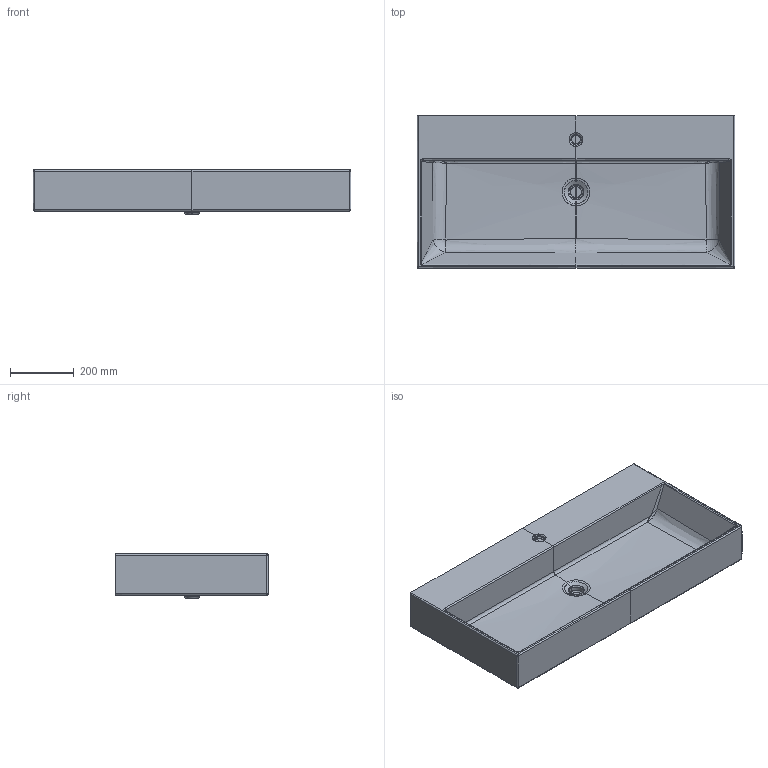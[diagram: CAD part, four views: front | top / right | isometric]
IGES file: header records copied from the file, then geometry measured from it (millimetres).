
Start section: START RECORD GO HERE.
Global section: file name: art 6100 lavabo plus 100x48.igs; native system: IBM CATIA IGES - CATIA Version 5 Release 17 ; preprocessor: CATIA Version 5 Release 17 ; author: Luca; organization: PC-Luca; date: 20131019.152220; units: millimetre
Bounding box: 1000 x 480 x 140 mm (x, y, z)
Surface area: 1102835.5 mm2 (no closed solid volume)
Topology: 0 solids, 0 shells, 82 faces, 348 edges, 346 vertices
Faces by surface type: bspline 82
